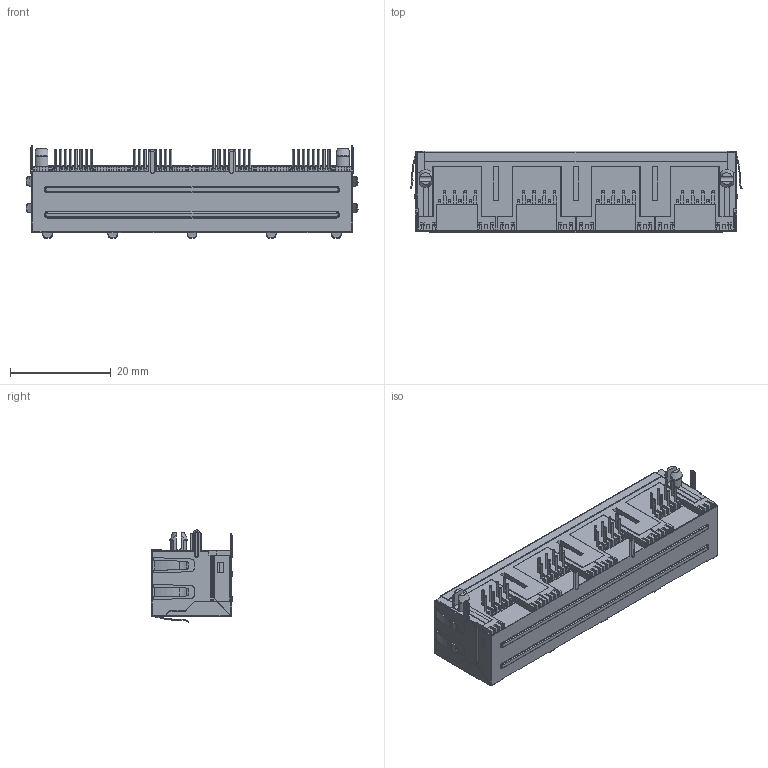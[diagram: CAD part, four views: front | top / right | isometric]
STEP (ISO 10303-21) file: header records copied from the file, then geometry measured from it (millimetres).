
FILE_DESCRIPTION((''),'2;1');
FILE_NAME('ASD2_ASM','2022-08-19T10:44:44',('Administrator'),(''),'CREO PARAMETRIC BY PTC INC, 2018400','CREO PARAMETRIC BY PTC INC, 2018400','');
FILE_SCHEMA(('CONFIG_CONTROL_DESIGN'));
Products named in the file (1): ASD2_ASM
Bounding box: 65.98 x 16.25 x 18.35 mm (x, y, z)
Volume: 1648.4 mm3; surface area: 17635.4 mm2
Topology: 4 solids, 6 shells, 2922 faces, 8537 edges, 5488 vertices
Faces by surface type: plane 2069, cylinder 675, torus 112, bspline 60, cone 4, sphere 2
Entity records: 101360 total; most frequent: CARTESIAN_POINT 24378, ORIENTED_EDGE 17054, DIRECTION 14864, EDGE_CURVE 8535, VECTOR 6250, LINE 6250, VERTEX_POINT 5488, AXIS2_PLACEMENT_3D 4307
